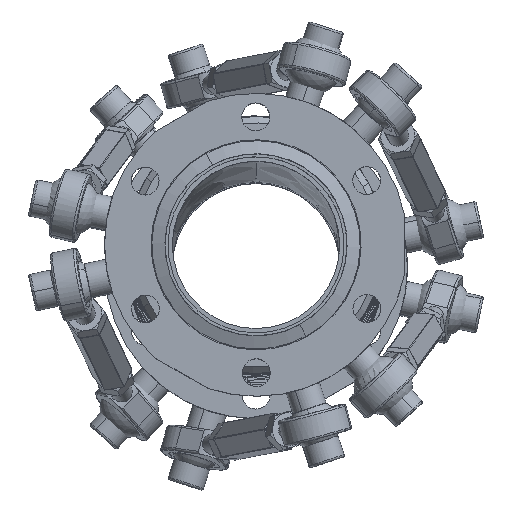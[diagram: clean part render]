
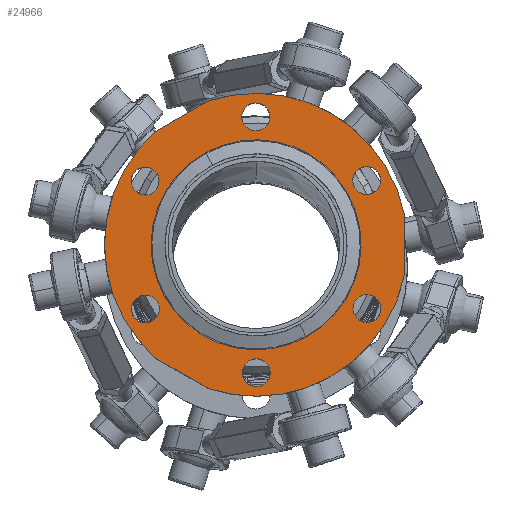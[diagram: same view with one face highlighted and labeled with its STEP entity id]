
A CAD part, top view. The second image highlights one B-rep face of the part: STEP entity #24966.
In plain terms, the highlighted planar face has unit normal (0, 0, 1).
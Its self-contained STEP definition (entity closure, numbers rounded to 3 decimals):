
#24725=AXIS2_PLACEMENT_3D('Circle Axis2P3D',#24723,#24724,$) ;
#24750=AXIS2_PLACEMENT_3D('Circle Axis2P3D',#24748,#24749,$) ;
#24794=AXIS2_PLACEMENT_3D('Plane Axis2P3D',#24791,#24792,#24793) ;
#24798=AXIS2_PLACEMENT_3D('Circle Axis2P3D',#24796,#24797,$) ;
#24814=AXIS2_PLACEMENT_3D('Circle Axis2P3D',#24812,#24813,$) ;
#24821=AXIS2_PLACEMENT_3D('Circle Axis2P3D',#24819,#24820,$) ;
#24835=AXIS2_PLACEMENT_3D('Circle Axis2P3D',#24833,#24834,$) ;
#24856=AXIS2_PLACEMENT_3D('Circle Axis2P3D',#24854,#24855,$) ;
#24865=AXIS2_PLACEMENT_3D('Circle Axis2P3D',#24863,#24864,$) ;
#24874=AXIS2_PLACEMENT_3D('Circle Axis2P3D',#24872,#24873,$) ;
#24883=AXIS2_PLACEMENT_3D('Circle Axis2P3D',#24881,#24882,$) ;
#24896=AXIS2_PLACEMENT_3D('Circle Axis2P3D',#24894,#24895,$) ;
#24905=AXIS2_PLACEMENT_3D('Circle Axis2P3D',#24903,#24904,$) ;
#24914=AXIS2_PLACEMENT_3D('Circle Axis2P3D',#24912,#24913,$) ;
#24923=AXIS2_PLACEMENT_3D('Circle Axis2P3D',#24921,#24922,$) ;
#24932=AXIS2_PLACEMENT_3D('Circle Axis2P3D',#24930,#24931,$) ;
#24941=AXIS2_PLACEMENT_3D('Circle Axis2P3D',#24939,#24940,$) ;
#24950=AXIS2_PLACEMENT_3D('Circle Axis2P3D',#24948,#24949,$) ;
#24959=AXIS2_PLACEMENT_3D('Circle Axis2P3D',#24957,#24958,$) ;
#24720=CARTESIAN_POINT('Vertex',(11.594,-16.128,91.1)) ;
#24723=CARTESIAN_POINT('Axis2P3D Location',(0.,5.,91.1)) ;
#24727=CARTESIAN_POINT('Vertex',(-11.594,26.128,91.1)) ;
#24748=CARTESIAN_POINT('Axis2P3D Location',(0.,5.,91.1)) ;
#24791=CARTESIAN_POINT('Axis2P3D Location',(-0.066,39.75,91.1)) ;
#24796=CARTESIAN_POINT('Axis2P3D Location',(0.,5.,91.1)) ;
#24800=CARTESIAN_POINT('Vertex',(-23.084,30.974,91.1)) ;
#24802=CARTESIAN_POINT('Vertex',(-22.985,-21.062,91.1)) ;
#24805=CARTESIAN_POINT('Line Origine',(-16.969,-24.521,91.1)) ;
#24809=CARTESIAN_POINT('Vertex',(-10.952,-27.979,91.1)) ;
#24812=CARTESIAN_POINT('Axis2P3D Location',(0.,5.,91.1)) ;
#24816=CARTESIAN_POINT('Vertex',(16.718,-25.464,91.1)) ;
#24819=CARTESIAN_POINT('Axis2P3D Location',(0.,5.,91.1)) ;
#24823=CARTESIAN_POINT('Vertex',(34.063,-1.875,91.1)) ;
#24826=CARTESIAN_POINT('Line Origine',(34.05,5.065,91.1)) ;
#24830=CARTESIAN_POINT('Vertex',(34.037,12.005,91.1)) ;
#24833=CARTESIAN_POINT('Axis2P3D Location',(0.,5.,91.1)) ;
#24837=CARTESIAN_POINT('Vertex',(-11.078,37.937,91.1)) ;
#24840=CARTESIAN_POINT('Line Origine',(-17.081,34.456,91.1)) ;
#24854=CARTESIAN_POINT('Axis2P3D Location',(0.056,-24.35,91.1)) ;
#24858=CARTESIAN_POINT('Vertex',(-3.143,-24.432,91.1)) ;
#24860=CARTESIAN_POINT('Vertex',(3.255,-24.268,91.1)) ;
#24863=CARTESIAN_POINT('Axis2P3D Location',(0.056,-24.35,91.1)) ;
#24872=CARTESIAN_POINT('Axis2P3D Location',(-25.446,19.627,91.1)) ;
#24876=CARTESIAN_POINT('Vertex',(-26.975,16.815,91.1)) ;
#24878=CARTESIAN_POINT('Vertex',(-23.917,22.438,91.1)) ;
#24881=CARTESIAN_POINT('Axis2P3D Location',(-25.446,19.627,91.1)) ;
#24894=CARTESIAN_POINT('Axis2P3D Location',(-25.39,-9.723,91.1)) ;
#24898=CARTESIAN_POINT('Vertex',(-27.06,-6.994,91.1)) ;
#24900=CARTESIAN_POINT('Vertex',(-23.72,-12.453,91.1)) ;
#24903=CARTESIAN_POINT('Axis2P3D Location',(-25.39,-9.723,91.1)) ;
#24912=CARTESIAN_POINT('Axis2P3D Location',(25.446,-9.627,91.1)) ;
#24916=CARTESIAN_POINT('Vertex',(23.917,-12.438,91.1)) ;
#24918=CARTESIAN_POINT('Vertex',(26.975,-6.815,91.1)) ;
#24921=CARTESIAN_POINT('Axis2P3D Location',(25.446,-9.627,91.1)) ;
#24930=CARTESIAN_POINT('Axis2P3D Location',(25.39,19.723,91.1)) ;
#24934=CARTESIAN_POINT('Vertex',(27.06,16.994,91.1)) ;
#24936=CARTESIAN_POINT('Vertex',(23.72,22.453,91.1)) ;
#24939=CARTESIAN_POINT('Axis2P3D Location',(25.39,19.723,91.1)) ;
#24948=CARTESIAN_POINT('Axis2P3D Location',(-0.056,34.35,91.1)) ;
#24952=CARTESIAN_POINT('Vertex',(3.143,34.432,91.1)) ;
#24954=CARTESIAN_POINT('Vertex',(-3.255,34.268,91.1)) ;
#24957=CARTESIAN_POINT('Axis2P3D Location',(-0.056,34.35,91.1)) ;
#24724=DIRECTION('Axis2P3D Direction',(0.,0.,1.)) ;
#24749=DIRECTION('Axis2P3D Direction',(0.,0.,1.)) ;
#24792=DIRECTION('Axis2P3D Direction',(0.,0.,1.)) ;
#24793=DIRECTION('Axis2P3D XDirection',(-0.002,1.,0.)) ;
#24797=DIRECTION('Axis2P3D Direction',(0.,0.,1.)) ;
#24806=DIRECTION('Vector Direction',(0.867,-0.498,0.)) ;
#24813=DIRECTION('Axis2P3D Direction',(0.,0.,1.)) ;
#24820=DIRECTION('Axis2P3D Direction',(0.,0.,1.)) ;
#24827=DIRECTION('Vector Direction',(-0.002,1.,0.)) ;
#24834=DIRECTION('Axis2P3D Direction',(0.,0.,1.)) ;
#24841=DIRECTION('Vector Direction',(-0.865,-0.502,0.)) ;
#24855=DIRECTION('Axis2P3D Direction',(0.,0.,1.)) ;
#24864=DIRECTION('Axis2P3D Direction',(0.,0.,1.)) ;
#24873=DIRECTION('Axis2P3D Direction',(0.,0.,1.)) ;
#24882=DIRECTION('Axis2P3D Direction',(0.,0.,1.)) ;
#24895=DIRECTION('Axis2P3D Direction',(0.,0.,1.)) ;
#24904=DIRECTION('Axis2P3D Direction',(0.,0.,1.)) ;
#24913=DIRECTION('Axis2P3D Direction',(0.,0.,1.)) ;
#24922=DIRECTION('Axis2P3D Direction',(0.,0.,1.)) ;
#24931=DIRECTION('Axis2P3D Direction',(0.,0.,1.)) ;
#24940=DIRECTION('Axis2P3D Direction',(0.,0.,1.)) ;
#24949=DIRECTION('Axis2P3D Direction',(0.,0.,1.)) ;
#24958=DIRECTION('Axis2P3D Direction',(0.,0.,1.)) ;
#24807=VECTOR('Line Direction',#24806,1.) ;
#24828=VECTOR('Line Direction',#24827,1.) ;
#24842=VECTOR('Line Direction',#24841,1.) ;
#24846=ORIENTED_EDGE('',*,*,#24804,.T.) ;
#24847=ORIENTED_EDGE('',*,*,#24811,.F.) ;
#24848=ORIENTED_EDGE('',*,*,#24818,.T.) ;
#24849=ORIENTED_EDGE('',*,*,#24825,.T.) ;
#24850=ORIENTED_EDGE('',*,*,#24832,.F.) ;
#24851=ORIENTED_EDGE('',*,*,#24839,.T.) ;
#24852=ORIENTED_EDGE('',*,*,#24844,.F.) ;
#24869=ORIENTED_EDGE('',*,*,#24862,.F.) ;
#24870=ORIENTED_EDGE('',*,*,#24867,.F.) ;
#24887=ORIENTED_EDGE('',*,*,#24880,.F.) ;
#24888=ORIENTED_EDGE('',*,*,#24885,.F.) ;
#24891=ORIENTED_EDGE('',*,*,#24752,.F.) ;
#24892=ORIENTED_EDGE('',*,*,#24729,.F.) ;
#24909=ORIENTED_EDGE('',*,*,#24902,.F.) ;
#24910=ORIENTED_EDGE('',*,*,#24907,.F.) ;
#24927=ORIENTED_EDGE('',*,*,#24920,.F.) ;
#24928=ORIENTED_EDGE('',*,*,#24925,.F.) ;
#24945=ORIENTED_EDGE('',*,*,#24938,.F.) ;
#24946=ORIENTED_EDGE('',*,*,#24943,.F.) ;
#24963=ORIENTED_EDGE('',*,*,#24956,.F.) ;
#24964=ORIENTED_EDGE('',*,*,#24961,.F.) ;
#24871=FACE_BOUND('',#24868,.T.) ;
#24889=FACE_BOUND('',#24886,.T.) ;
#24893=FACE_BOUND('',#24890,.T.) ;
#24911=FACE_BOUND('',#24908,.T.) ;
#24929=FACE_BOUND('',#24926,.T.) ;
#24947=FACE_BOUND('',#24944,.T.) ;
#24965=FACE_BOUND('',#24962,.T.) ;
#24966=ADVANCED_FACE('Brep With Voids.1',(#24853,#24871,#24889,#24893,#24911,#24929,#24947,#24965),#24795,.T.) ;
#24726=CIRCLE('generated circle',#24725,24.1) ;
#24751=CIRCLE('generated circle',#24750,24.1) ;
#24799=CIRCLE('generated circle',#24798,34.75) ;
#24815=CIRCLE('generated circle',#24814,34.75) ;
#24822=CIRCLE('generated circle',#24821,34.75) ;
#24836=CIRCLE('generated circle',#24835,34.75) ;
#24857=CIRCLE('generated circle',#24856,3.2) ;
#24866=CIRCLE('generated circle',#24865,3.2) ;
#24875=CIRCLE('generated circle',#24874,3.2) ;
#24884=CIRCLE('generated circle',#24883,3.2) ;
#24897=CIRCLE('generated circle',#24896,3.2) ;
#24906=CIRCLE('generated circle',#24905,3.2) ;
#24915=CIRCLE('generated circle',#24914,3.2) ;
#24924=CIRCLE('generated circle',#24923,3.2) ;
#24933=CIRCLE('generated circle',#24932,3.2) ;
#24942=CIRCLE('generated circle',#24941,3.2) ;
#24951=CIRCLE('generated circle',#24950,3.2) ;
#24960=CIRCLE('generated circle',#24959,3.2) ;
#24729=EDGE_CURVE('',#24721,#24728,#24726,.T.) ;
#24752=EDGE_CURVE('',#24728,#24721,#24751,.T.) ;
#24804=EDGE_CURVE('',#24801,#24803,#24799,.T.) ;
#24811=EDGE_CURVE('',#24810,#24803,#24808,.F.) ;
#24818=EDGE_CURVE('',#24810,#24817,#24815,.T.) ;
#24825=EDGE_CURVE('',#24817,#24824,#24822,.T.) ;
#24832=EDGE_CURVE('',#24831,#24824,#24829,.F.) ;
#24839=EDGE_CURVE('',#24831,#24838,#24836,.T.) ;
#24844=EDGE_CURVE('',#24801,#24838,#24843,.F.) ;
#24862=EDGE_CURVE('',#24859,#24861,#24857,.T.) ;
#24867=EDGE_CURVE('',#24861,#24859,#24866,.T.) ;
#24880=EDGE_CURVE('',#24877,#24879,#24875,.T.) ;
#24885=EDGE_CURVE('',#24879,#24877,#24884,.T.) ;
#24902=EDGE_CURVE('',#24899,#24901,#24897,.T.) ;
#24907=EDGE_CURVE('',#24901,#24899,#24906,.T.) ;
#24920=EDGE_CURVE('',#24917,#24919,#24915,.T.) ;
#24925=EDGE_CURVE('',#24919,#24917,#24924,.T.) ;
#24938=EDGE_CURVE('',#24935,#24937,#24933,.T.) ;
#24943=EDGE_CURVE('',#24937,#24935,#24942,.T.) ;
#24956=EDGE_CURVE('',#24953,#24955,#24951,.T.) ;
#24961=EDGE_CURVE('',#24955,#24953,#24960,.T.) ;
#24845=EDGE_LOOP('',(#24846,#24847,#24848,#24849,#24850,#24851,#24852)) ;
#24868=EDGE_LOOP('',(#24869,#24870)) ;
#24886=EDGE_LOOP('',(#24887,#24888)) ;
#24890=EDGE_LOOP('',(#24891,#24892)) ;
#24908=EDGE_LOOP('',(#24909,#24910)) ;
#24926=EDGE_LOOP('',(#24927,#24928)) ;
#24944=EDGE_LOOP('',(#24945,#24946)) ;
#24962=EDGE_LOOP('',(#24963,#24964)) ;
#24853=FACE_OUTER_BOUND('',#24845,.T.) ;
#24808=LINE('Line',#24805,#24807) ;
#24829=LINE('Line',#24826,#24828) ;
#24843=LINE('Line',#24840,#24842) ;
#24795=PLANE('',#24794) ;
#24721=VERTEX_POINT('',#24720) ;
#24728=VERTEX_POINT('',#24727) ;
#24801=VERTEX_POINT('',#24800) ;
#24803=VERTEX_POINT('',#24802) ;
#24810=VERTEX_POINT('',#24809) ;
#24817=VERTEX_POINT('',#24816) ;
#24824=VERTEX_POINT('',#24823) ;
#24831=VERTEX_POINT('',#24830) ;
#24838=VERTEX_POINT('',#24837) ;
#24859=VERTEX_POINT('',#24858) ;
#24861=VERTEX_POINT('',#24860) ;
#24877=VERTEX_POINT('',#24876) ;
#24879=VERTEX_POINT('',#24878) ;
#24899=VERTEX_POINT('',#24898) ;
#24901=VERTEX_POINT('',#24900) ;
#24917=VERTEX_POINT('',#24916) ;
#24919=VERTEX_POINT('',#24918) ;
#24935=VERTEX_POINT('',#24934) ;
#24937=VERTEX_POINT('',#24936) ;
#24953=VERTEX_POINT('',#24952) ;
#24955=VERTEX_POINT('',#24954) ;
